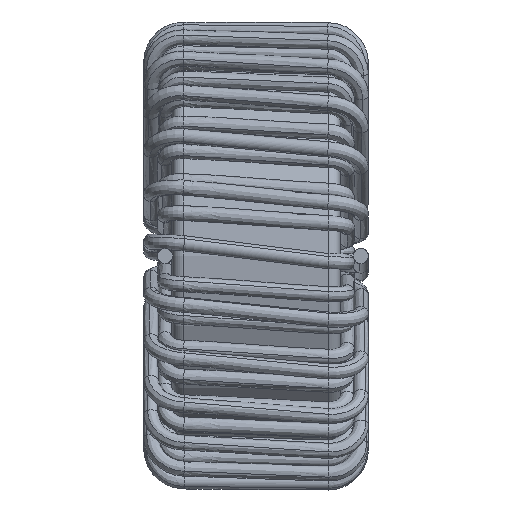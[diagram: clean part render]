
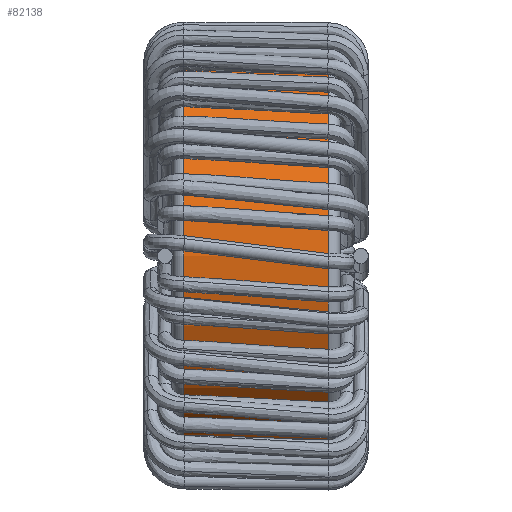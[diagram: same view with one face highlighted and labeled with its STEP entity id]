
A CAD part, left-side view. The second image highlights one B-rep face of the part: STEP entity #82138.
In plain terms, the highlighted cylindrical face has radius 8.7 mm (diameter 17.4 mm), a partial arc.
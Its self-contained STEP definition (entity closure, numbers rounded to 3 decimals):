
#1237 = AXIS2_PLACEMENT_3D ( 'NONE', #66264, #75073, #100502 ) ;
#2346 = VECTOR ( 'NONE', #86964, 1000. ) ;
#4777 = EDGE_CURVE ( 'NONE', #106526, #76106, #12391, .T. ) ;
#5252 = AXIS2_PLACEMENT_3D ( 'NONE', #96546, #71857, #71111 ) ;
#5810 = CARTESIAN_POINT ( 'NONE',  ( -20.391, -3.775, 23.294 ) ) ;
#7981 = EDGE_CURVE ( 'NONE', #90709, #106526, #38119, .T. ) ;
#12391 = CIRCLE ( 'NONE', #1237, 8.7 ) ;
#18293 = DIRECTION ( 'NONE',  ( 0., -1., 0. ) ) ;
#23054 = ORIENTED_EDGE ( 'NONE', *, *, #109416, .T. ) ;
#25263 = CARTESIAN_POINT ( 'NONE',  ( -20.391, 2.335, 5.894 ) ) ;
#27441 = ORIENTED_EDGE ( 'NONE', *, *, #4777, .T. ) ;
#28364 = CARTESIAN_POINT ( 'NONE',  ( -20.391, 2.835, 5.894 ) ) ;
#32503 = VERTEX_POINT ( 'NONE', #77909 ) ;
#33902 = DIRECTION ( 'NONE',  ( 0., -1., 0. ) ) ;
#35327 = VECTOR ( 'NONE', #18293, 1000. ) ;
#38119 = LINE ( 'NONE', #28364, #2346 ) ;
#38972 = EDGE_LOOP ( 'NONE', ( #57943, #23054, #83629, #27441 ) ) ;
#46113 = AXIS2_PLACEMENT_3D ( 'NONE', #49455, #33902, #67798 ) ;
#49455 = CARTESIAN_POINT ( 'NONE',  ( -20.391, 2.335, 14.594 ) ) ;
#52209 = CIRCLE ( 'NONE', #46113, 8.7 ) ;
#56590 = FACE_OUTER_BOUND ( 'NONE', #38972, .T. ) ;
#57943 = ORIENTED_EDGE ( 'NONE', *, *, #59092, .F. ) ;
#59092 = EDGE_CURVE ( 'NONE', #32503, #76106, #61640, .T. ) ;
#61640 = LINE ( 'NONE', #104976, #35327 ) ;
#66264 = CARTESIAN_POINT ( 'NONE',  ( -20.391, -3.775, 14.594 ) ) ;
#67798 = DIRECTION ( 'NONE',  ( 0., 0., 1. ) ) ;
#71111 = DIRECTION ( 'NONE',  ( 0., 0., -1. ) ) ;
#71857 = DIRECTION ( 'NONE',  ( 0., -1., 0. ) ) ;
#75073 = DIRECTION ( 'NONE',  ( 0., 1., 0. ) ) ;
#76106 = VERTEX_POINT ( 'NONE', #5810 ) ;
#77909 = CARTESIAN_POINT ( 'NONE',  ( -20.391, 2.335, 23.294 ) ) ;
#82138 = ADVANCED_FACE ( 'NONE', ( #56590 ), #104024, .T. ) ;
#82463 = CARTESIAN_POINT ( 'NONE',  ( -20.391, -3.775, 5.894 ) ) ;
#83629 = ORIENTED_EDGE ( 'NONE', *, *, #7981, .T. ) ;
#86964 = DIRECTION ( 'NONE',  ( 0., -1., 0. ) ) ;
#90709 = VERTEX_POINT ( 'NONE', #25263 ) ;
#96546 = CARTESIAN_POINT ( 'NONE',  ( -20.391, 2.835, 14.594 ) ) ;
#100502 = DIRECTION ( 'NONE',  ( 0., 0., 1. ) ) ;
#104024 = CYLINDRICAL_SURFACE ( 'NONE', #5252, 8.7 ) ;
#104976 = CARTESIAN_POINT ( 'NONE',  ( -20.391, 2.835, 23.294 ) ) ;
#106526 = VERTEX_POINT ( 'NONE', #82463 ) ;
#109416 = EDGE_CURVE ( 'NONE', #32503, #90709, #52209, .T. ) ;
